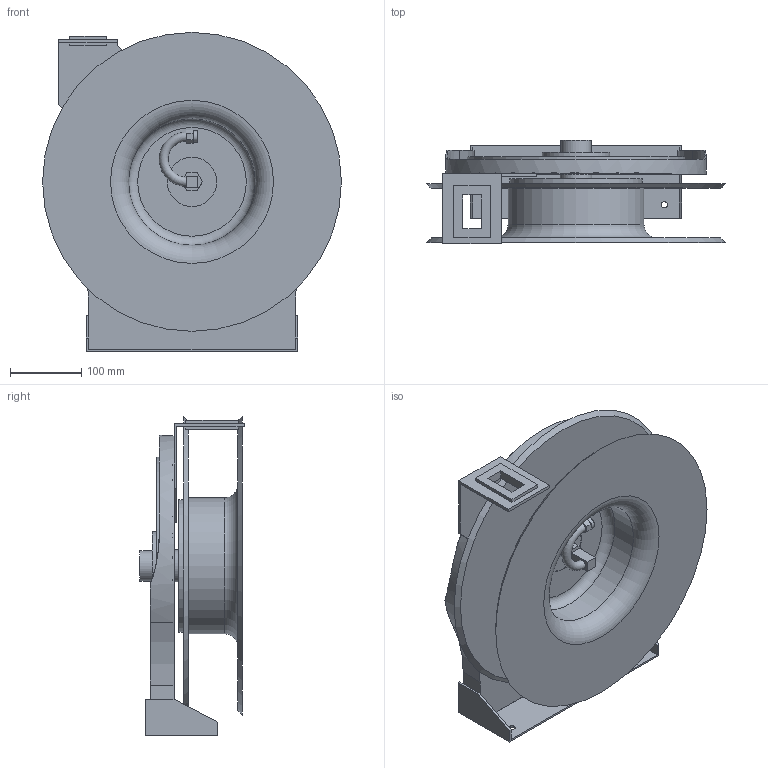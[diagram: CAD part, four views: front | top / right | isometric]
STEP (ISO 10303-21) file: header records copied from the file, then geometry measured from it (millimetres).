
FILE_DESCRIPTION( ( 'Unknown' ), '1' );
FILE_NAME( 'J:/NPD/RE 12893 3D WEB MODELS/5005 SERIES/5X05 OXP TW.stp', 'Unknown', ( 'Unknown' ), ( 'Unknown' ), 'PSStep 10.1', 'Unknown', ' ' );
FILE_SCHEMA( ( 'AUTOMOTIVE_DESIGN { 1 0 10303 214 1 1 1 1 }' ) );
Length unit declared in the file: millimetre
Products named in the file (1): 1
Bounding box: 419.1 x 146.12 x 447.54 mm (x, y, z)
Volume: 4228670.2 mm3; surface area: 1022581.9 mm2
Topology: 1 solids, 1 shells, 124 faces, 296 edges, 192 vertices
Faces by surface type: plane 92, cylinder 24, cone 4, torus 4
Full cylindrical faces by diameter (mm): 8.712 x4, 11.862 x1, 15.281 x1, 15.875 x1, 25.4 x1, 42.85 x1, 44.704 x1, 69.266 x1, 95.25 x1, 177.8 x1, 185.826 x1, 190.5 x1, 304.8 x1
Entity records: 4416 total; most frequent: CARTESIAN_POINT 619, DIRECTION 578, ORIENTED_EDGE 522, EDGE_CURVE 261, AXIS2_PLACEMENT_3D 196, LINE 186, VECTOR 186, VERTEX_POINT 181
